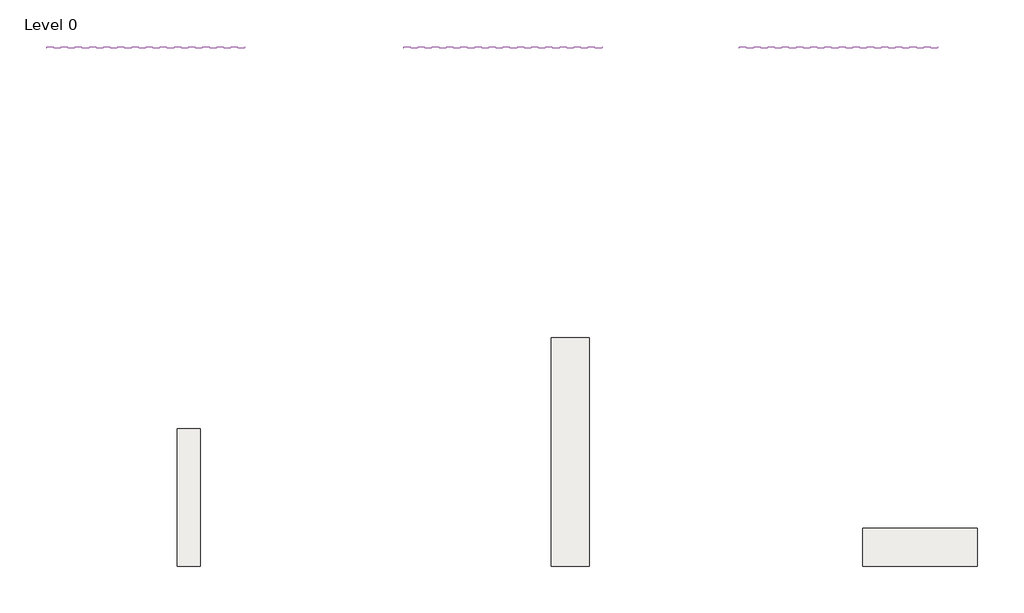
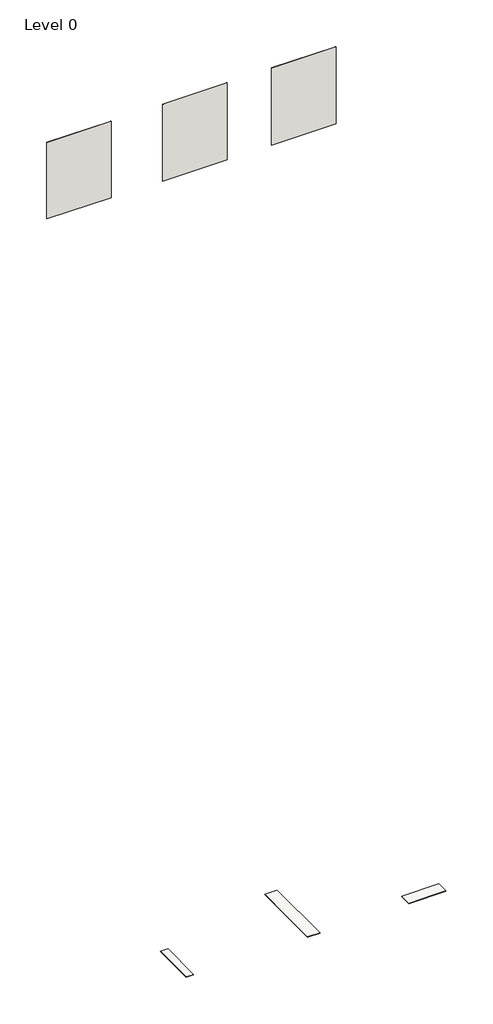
# One storey: 3 slabs, 3 walls.
"""IFC4 building model written with IfcOpenShell, lengths in millimetres."""

from ifc_helpers import new_model, si_unit, frame, origin, place, context, project, spatial, polyline, outline, extrude, element, save

model = new_model("IFC4")

# Units and contexts
model_context = context("Model", 3, world=origin())
ifc_project = project(units=[si_unit("LENGTHUNIT", "METRE", prefix="MILLI")], contexts=[model_context])

# Site, building, storey
site = spatial("IfcSite", under=ifc_project)
building = spatial("IfcBuilding", under=site)
storey = spatial("IfcBuildingStorey", under=building, Name="Level 0", Elevation=0.0)

# Slabs
placement = place(None, origin())
element("IfcSlab", 1, ObjectType="Floor_Tiles_Refin-Larix-Fresh-15x90 OB51", at=placement, inside=storey, context=model_context, shape_type="SweptSolid", body=[
    extrude(outline(polyline([(6924.3752062, 5639.4623743), (6924.3752062, 4739.4623743), (6774.3752062, 4739.4623743), (6774.3752062, 5639.4623743), (6924.3752062, 5639.4623743)])), frame((0.0, 0.0, -10.0), z_axis=(0.0, 0.0, 1.0), x_axis=(1.0, 0.0, 0.0)), (0.0, 0.0, 1.0), 10.0),
])
element("IfcSlab", 2, ObjectType="Floor_Tiles_Refin-Larix-Fresh-25x150 LE14", at=placement, inside=storey, context=model_context, shape_type="SweptSolid", body=[
    extrude(outline(polyline([(9474.3752062, 6238.4192064), (9474.3752062, 4738.4192064), (9224.3752062, 4738.4192064), (9224.3752062, 6238.4192064), (9474.3752062, 6238.4192064)])), frame((0.0, 0.0, -10.0), z_axis=(0.0, 0.0, 1.0), x_axis=(1.0, 0.0, 0.0)), (0.0, 0.0, 1.0), 10.0),
])
element("IfcSlab", 3, ObjectType="Floor_Tiles_Refin-Larix-Fresh-Muretto-25x75 LF55", at=placement, inside=storey, context=model_context, shape_type="SweptSolid", body=[
    extrude(outline(polyline([(12017.3924055, 4988.4192064), (12017.3924055, 4738.4192064), (11267.3924055, 4738.4192064), (11267.3924055, 4988.4192064), (12017.3924055, 4988.4192064)])), frame((0.0, 0.0, -10.0), z_axis=(0.0, 0.0, 1.0), x_axis=(1.0, 0.0, 0.0)), (0.0, 0.0, 1.0), 10.0),
])

# Walls
element("IfcWall", 4, ObjectType="Wall_Tiles_Refin-Larix-Fresh-25x150 LE14", at=placement, inside=storey, context=model_context, shape_type="SweptSolid", body=[
    extrude(outline(polyline([(9557.3752062, 8132.3838631), (8257.3752062, 8132.3838631), (8257.3752062, 8142.3838631), (9557.3752062, 8142.3838631), (9557.3752062, 8132.3838631)])), frame((0.0, 0.0, 14387.6770443), z_axis=(0.0, 0.0, 1.0), x_axis=(1.0, 0.0, 0.0)), (0.0, 0.0, 1.0), 1641.7417352),
])
element("IfcWall", 5, ObjectType="Wall_Tiles_Refin-Larix-Fresh-Muretto-25x75 LF55", at=placement, inside=storey, context=model_context, shape_type="SweptSolid", body=[
    extrude(outline(polyline([(11757.3752062, 8132.3838631), (10457.3752062, 8132.3838631), (10457.3752062, 8142.3838631), (11757.3752062, 8142.3838631), (11757.3752062, 8132.3838631)])), frame((0.0, 0.0, 14387.6770443), z_axis=(0.0, 0.0, 1.0), x_axis=(1.0, 0.0, 0.0)), (0.0, 0.0, 1.0), 1641.7417352),
])
element("IfcWall", 6, ObjectType="Wall_Tiles_Refin-Larix-Fresh-15x90 OB51", at=placement, inside=storey, context=model_context, shape_type="SweptSolid", body=[
    extrude(outline(polyline([(7217.3752062, 8132.3838631), (5917.3752062, 8132.3838631), (5917.3752062, 8142.3838631), (7217.3752062, 8142.3838631), (7217.3752062, 8132.3838631)])), frame((0.0, 0.0, 14403.7267346), z_axis=(0.0, 0.0, 1.0), x_axis=(1.0, 0.0, 0.0)), (0.0, 0.0, 1.0), 1625.692045),
])

save(model, "model.ifc")
